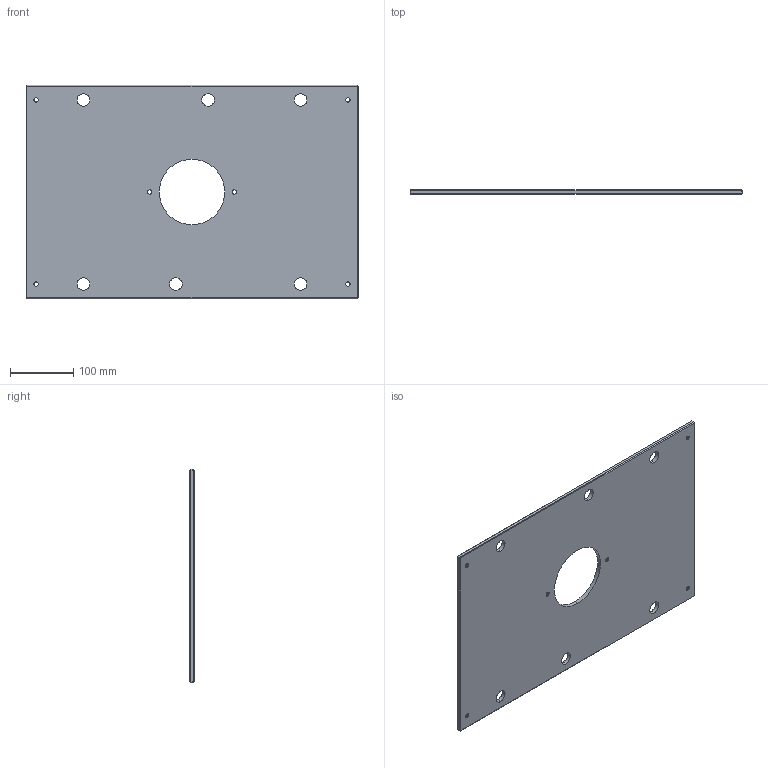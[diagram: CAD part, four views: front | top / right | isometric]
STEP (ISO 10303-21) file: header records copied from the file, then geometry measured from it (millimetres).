
FILE_DESCRIPTION (( 'STEP AP214' ), '1' );
FILE_NAME ('ME-0619-CH-1321-B.STEP', '2020-02-11T13:11:23', ( '' ), ( '' ), 'SwSTEP 2.0', 'SolidWorks 2018', '' );
FILE_SCHEMA (( 'AUTOMOTIVE_DESIGN' ));
Length unit declared in the file: inch
Products named in the file (1): ME-0619-CH-1321-B
Bounding box: 523.88 x 6.35 x 336.55 mm (x, y, z)
Volume: 1049178.4 mm3; surface area: 345198.3 mm2
Topology: 1 solids, 1 shells, 64 faces, 150 edges, 88 vertices
Faces by surface type: cylinder 26, plane 26, cone 12
Entity records: 1902 total; most frequent: DIRECTION 344, CARTESIAN_POINT 303, ORIENTED_EDGE 300, EDGE_CURVE 150, AXIS2_PLACEMENT_3D 129, EDGE_LOOP 90, VERTEX_POINT 88, VECTOR 86
